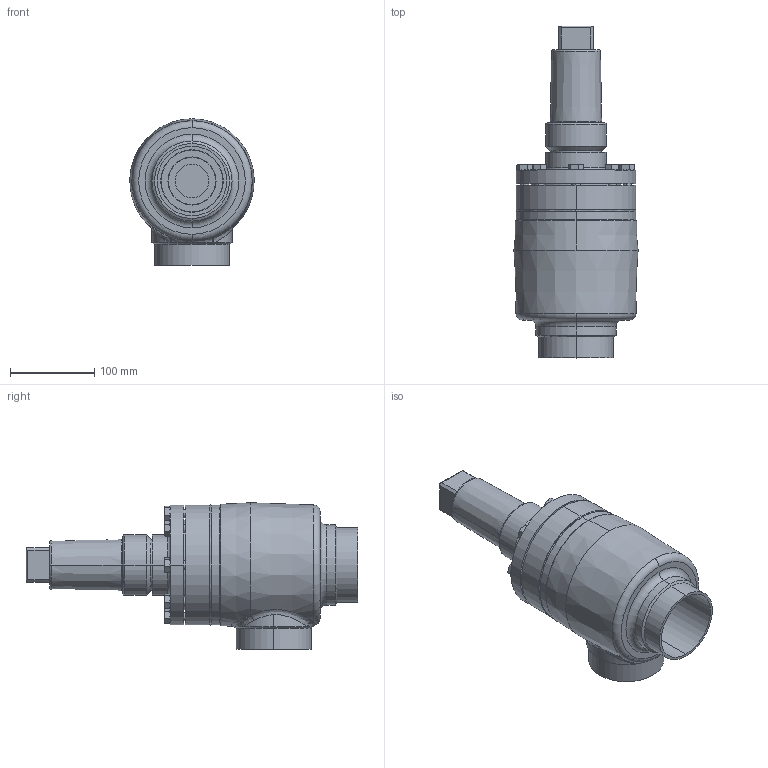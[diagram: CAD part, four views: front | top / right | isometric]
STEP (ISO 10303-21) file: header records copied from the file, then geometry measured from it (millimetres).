
FILE_DESCRIPTION (( 'STEP AP214' ), '1' );
FILE_NAME ('HRAB12400D18-DN080_R1_PS40.STEP', '2007-01-08T07:24:57', ( 'Herr Grams' ), ( 'AWP GmbH' ), 'SwSTEP 2.0', 'SolidWorks 2002296', '' );
FILE_SCHEMA (( 'AUTOMOTIVE_DESIGN' ));
Length unit declared in the file: millimetre
Products named in the file (9): HRAB12400D18-DN080_R1_PS40; Gehäuse-kpl16400-DN080_R1_Standard; bead-DN080-1_Standard; Kopfstück16300-DN080_Standard; Gehäuse16400-DN080_Standard; AVB16300E18_Deck+Schr-DN80_Standard; Deckel16300E18-DN80_Standard; Sechskantschraube-DIN933_M10x 30; Kappe16402_DN080-100_Standard
Assembly tree (15 placements, depth 3):
  HRAB12400D18-DN080_R1_PS40
    AVB16300E18_Deck+Schr-DN80_Standard
      Sechskantschraube-DIN933_M10x 30  x8
      Deckel16300E18-DN80_Standard
    Gehäuse-kpl16400-DN080_R1_Standard
      Gehäuse16400-DN080_Standard
      Kopfstück16300-DN080_Standard
      bead-DN080-1_Standard
    Kappe16402_DN080-100_Standard
Bounding box: 147.49 x 394 x 173.89 mm (x, y, z)
Volume: 1940973 mm3; surface area: 351885.5 mm2
Topology: 13 solids, 13 shells, 363 faces, 778 edges, 467 vertices
Faces by surface type: cone 133, plane 106, cylinder 100, torus 12, bspline 12
Entity records: 17197 total; most frequent: CARTESIAN_POINT 12214, DIRECTION 953, ORIENTED_EDGE 828, AXIS2_PLACEMENT_3D 415, EDGE_CURVE 414, VERTEX_POINT 257, EDGE_LOOP 231, CIRCLE 219
